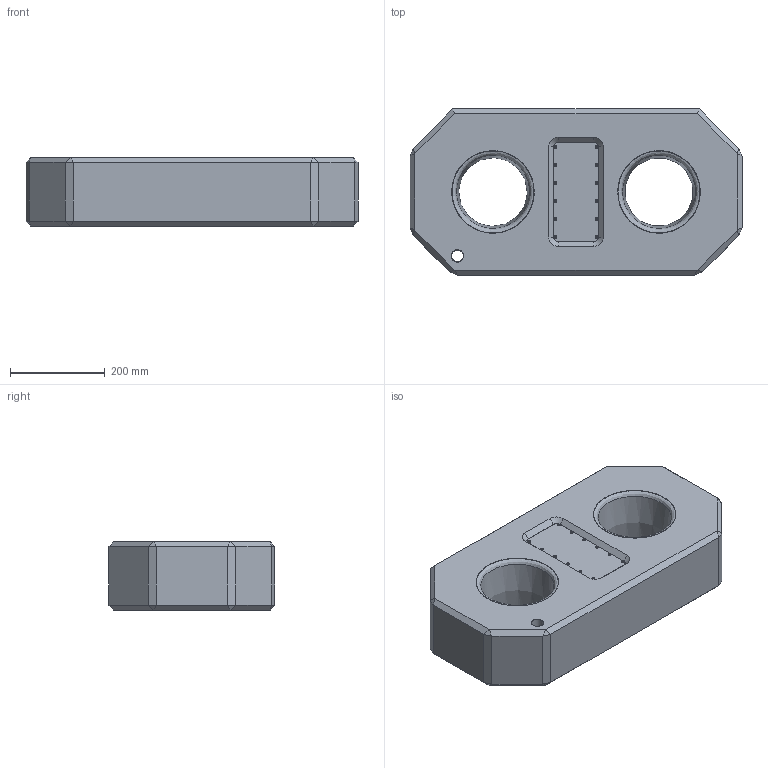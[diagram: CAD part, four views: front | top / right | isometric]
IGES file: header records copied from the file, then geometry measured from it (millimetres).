
Global section: file name: RLP250T; native system: Autodesk Inventor 2016; preprocessor: unknown; author: rdivakaran; date: 20180811.131911; units: millimetre
Bounding box: 700 x 350 x 144.5 mm (x, y, z)
Volume: 26360501 mm3; surface area: 1307015 mm2
Topology: 79 solids, 79 shells, 4194 faces, 10821 edges, 7067 vertices
Faces by surface type: bspline 4194
